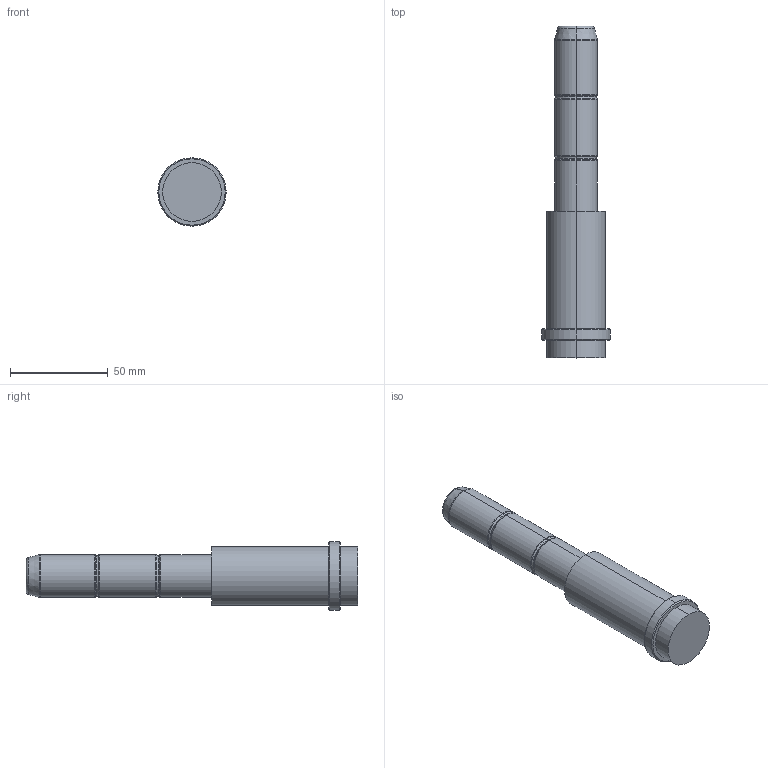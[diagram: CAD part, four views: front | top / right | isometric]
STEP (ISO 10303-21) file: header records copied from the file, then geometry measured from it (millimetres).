
FILE_DESCRIPTION (( 'STEP AP214' ), '1' );
FILE_NAME ('BR00 22x66x95.STEP', '2019-05-15T13:46:26', ( 'August' ), ( '' ), 'SwSTEP 2.0', 'SolidWorks 2018', '' );
FILE_SCHEMA (( 'AUTOMOTIVE_DESIGN' ));
Length unit declared in the file: millimetre
Products named in the file (1): BR00 22x66x95
Bounding box: 35 x 170 x 35 mm (x, y, z)
Volume: 90055.8 mm3; surface area: 15456.7 mm2
Topology: 1 solids, 1 shells, 43 faces, 84 edges, 46 vertices
Faces by surface type: torus 20, cylinder 12, cone 6, plane 5
Entity records: 1138 total; most frequent: DIRECTION 238, CARTESIAN_POINT 174, ORIENTED_EDGE 168, AXIS2_PLACEMENT_3D 110, EDGE_CURVE 84, CIRCLE 66, EDGE_LOOP 46, VERTEX_POINT 46
